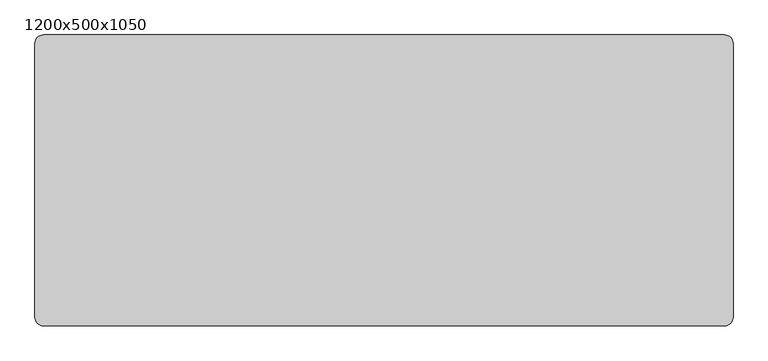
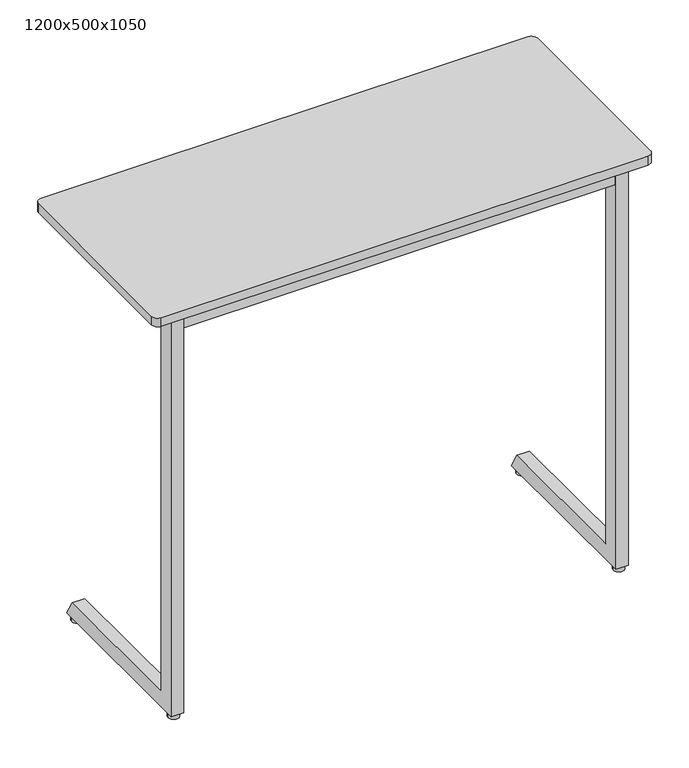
"""IFC4 building model written with IfcOpenShell, lengths in millimetres: furniture geometry, Trivia Light : 1200x500x1050."""

from ifc_helpers import new_model, si_unit, point, frame, frame_2d, origin, origin_with_axes, place, context, project, spatial, polyline, circle_curve, trimmed, segment, composite_curve, outline, extrude, source, transform, mapped, element, save


def furniture_1200x500x1050_c4544170(model_context):
    return source(origin(), model_context, "Body", "SweptSolid", [
        extrude(outline(polyline([(434.5100173, 1028.0), (419.9996059, 996.4981092), (54.0, 996.4977978), (54.0, 1028.0), (434.5100173, 1028.0)])), frame((-464.7535601, 0.0, 0.0), z_axis=(1.0, 0.0, 0.0), x_axis=(0.0, 1.0, 0.0)), (0.0, 0.0, 1.0), 30.0),
        extrude(outline(polyline([(1023.7997437, -467.7502136), (1000.730957, -467.7502136), (1000.730957, -499.8065042), (1005.0394353, -511.6439509), (1002.2203574, -512.6700113), (997.730957, -500.3354852), (997.730957, -464.7502136), (1023.7997437, -464.7502136), (1023.7997437, -467.7502136)])), frame((0.0, 215.0, 0.0), z_axis=(0.0, 1.0, 0.0), x_axis=(0.0, 0.0, 1.0)), (0.0, 0.0, 1.0), 30.0),
        extrude(outline(polyline([(1023.7997437, 467.7535601), (1023.7997437, 464.7535601), (997.730957, 464.7535601), (997.730957, 500.3388316), (1002.2203574, 512.6733577), (1005.0394353, 511.6472973), (1000.730957, 499.8098507), (1000.730957, 467.7535601), (1023.7997437, 467.7535601)])), frame((0.0, 215.0, 0.0), z_axis=(0.0, 1.0, 0.0), x_axis=(0.0, 0.0, 1.0)), (0.0, 0.0, 1.0), 30.0),
        extrude(outline(composite_curve([segment(trimmed(circle_curve(frame_2d((-535.0, 35.0)), 13.0), [point((-548.0, 35.0))], [point((-522.0, 35.0))], False, "CARTESIAN"), True, "CONTINUOUS"), segment(trimmed(circle_curve(frame_2d((-535.0, 35.0)), 13.0), [point((-522.0, 35.0))], [point((-548.0, 35.0))], False, "CARTESIAN"), True, "CONTINUOUS")], self_intersect=False)), origin_with_axes(), (0.0, 0.0, 1.0), 13.0905762),
        extrude(outline(composite_curve([segment(trimmed(circle_curve(frame_2d((535.0, 35.0)), 13.0), [point((522.0, 35.0))], [point((548.0, 35.0))], False, "CARTESIAN"), True, "CONTINUOUS"), segment(trimmed(circle_curve(frame_2d((535.0, 35.0)), 13.0), [point((548.0, 35.0))], [point((522.0, 35.0))], False, "CARTESIAN"), True, "CONTINUOUS")], self_intersect=False)), origin_with_axes(), (0.0, 0.0, 1.0), 13.0905762),
        extrude(outline(composite_curve([segment(trimmed(circle_curve(frame_2d((535.0, 437.5)), 13.0), [point((522.0, 437.5))], [point((548.0, 437.5))], False, "CARTESIAN"), True, "CONTINUOUS"), segment(trimmed(circle_curve(frame_2d((535.0, 437.5)), 13.0), [point((548.0, 437.5))], [point((522.0, 437.5))], False, "CARTESIAN"), True, "CONTINUOUS")], self_intersect=False)), origin_with_axes(), (0.0, 0.0, 1.0), 13.0905762),
        extrude(outline(composite_curve([segment(trimmed(circle_curve(frame_2d((-535.0, 437.5)), 13.0), [point((-548.0, 437.5))], [point((-522.0, 437.5))], False, "CARTESIAN"), True, "CONTINUOUS"), segment(trimmed(circle_curve(frame_2d((-535.0, 437.5)), 13.0), [point((-522.0, 437.5))], [point((-548.0, 437.5))], False, "CARTESIAN"), True, "CONTINUOUS")], self_intersect=False)), origin_with_axes(), (0.0, 0.0, 1.0), 13.0905762),
        extrude(outline(polyline([(434.5100173, 1028.0), (419.9996059, 996.4981092), (54.0, 996.4977978), (54.0, 1028.0), (434.5100173, 1028.0)])), frame((434.7535601, 0.0, 0.0), z_axis=(1.0, 0.0, 0.0), x_axis=(0.0, 1.0, 0.0)), (0.0, 0.0, 1.0), 30.0),
        extrude(outline(composite_curve([segment(trimmed(circle_curve(frame_2d((585.0, 485.0)), 15.0), [point((585.0, 500.0))], [point((600.0, 485.0))], False, "CARTESIAN"), True, "CONTINUOUS"), segment(polyline([(600.0, 485.0), (600.0, 15.0)]), True, "CONTINUOUS"), segment(trimmed(circle_curve(frame_2d((585.0, 15.0)), 15.0), [point((600.0, 15.0))], [point((585.0, 0.0))], False, "CARTESIAN"), True, "CONTINUOUS"), segment(polyline([(585.0, 0.0), (-585.0, 0.0)]), True, "CONTINUOUS"), segment(trimmed(circle_curve(frame_2d((-585.0, 15.0)), 15.0), [point((-585.0, 0.0))], [point((-600.0, 15.0))], False, "CARTESIAN"), True, "CONTINUOUS"), segment(polyline([(-600.0, 15.0), (-600.0, 485.0)]), True, "CONTINUOUS"), segment(trimmed(circle_curve(frame_2d((-585.0, 485.0)), 15.0), [point((-600.0, 485.0))], [point((-585.0, 500.0))], False, "CARTESIAN"), True, "CONTINUOUS"), segment(polyline([(-585.0, 500.0), (585.0, 500.0)]), True, "CONTINUOUS")], self_intersect=False)), frame((0.0, 0.0, 1028.0), z_axis=(0.0, 0.0, 1.0), x_axis=(1.0, 0.0, 0.0)), (0.0, 0.0, 1.0), 22.0),
        extrude(outline(polyline([(519.7534307, 54.0), (519.7534307, 24.0), (-519.7534307, 24.0), (-519.7534307, 54.0), (519.7534307, 54.0)])), frame((0.0, 0.0, 986.0), z_axis=(0.0, 0.0, 1.0), x_axis=(1.0, 0.0, 0.0)), (0.0, 0.0, 1.0), 42.0),
        extrude(outline(polyline([(62.0, 51.5905762), (432.1448423, 51.5905762), (454.8944033, 11.5905762), (20.0, 11.5905762), (20.0, 1028.0), (62.0, 1028.0), (62.0, 51.5905762)])), frame((-549.7535601, 0.0, 0.0), z_axis=(1.0, 0.0, 0.0), x_axis=(0.0, 1.0, 0.0)), (0.0, 0.0, 1.0), 30.0001294),
        extrude(outline(polyline([(62.0, 51.5905762), (432.1448423, 51.5905762), (454.8944033, 11.5905762), (20.0, 11.5905762), (20.0, 1028.0), (62.0, 1028.0), (62.0, 51.5905762)])), frame((519.7534307, 0.0, 0.0), z_axis=(1.0, 0.0, 0.0), x_axis=(0.0, 1.0, 0.0)), (0.0, 0.0, 1.0), 30.0001294),
    ])


if __name__ == "__main__":
    model = new_model("IFC4")
    model_context = context("Model", 3, world=origin())
    ifc_project = project(units=[si_unit("LENGTHUNIT", "METRE", prefix="MILLI")], contexts=[model_context])
    site = spatial("IfcSite", under=ifc_project)
    building = spatial("IfcBuilding", under=site)
    placement = place(None, origin())
    furniture_1200x500x1050_shape = furniture_1200x500x1050_c4544170(model_context)
    element("IfcFurniture", 1, ObjectType="Trivia Light : 1200x500x1050", at=placement, inside=building, context=model_context, shape_type="MappedRepresentation", body=[
        mapped(furniture_1200x500x1050_shape, transform((0.0, 0.0, 0.0), x_axis=(1.0, 0.0, 0.0), y_axis=(0.0, 1.0, 0.0), z_axis=(0.0, 0.0, 1.0))),
    ])
    save(model, "model.ifc")
